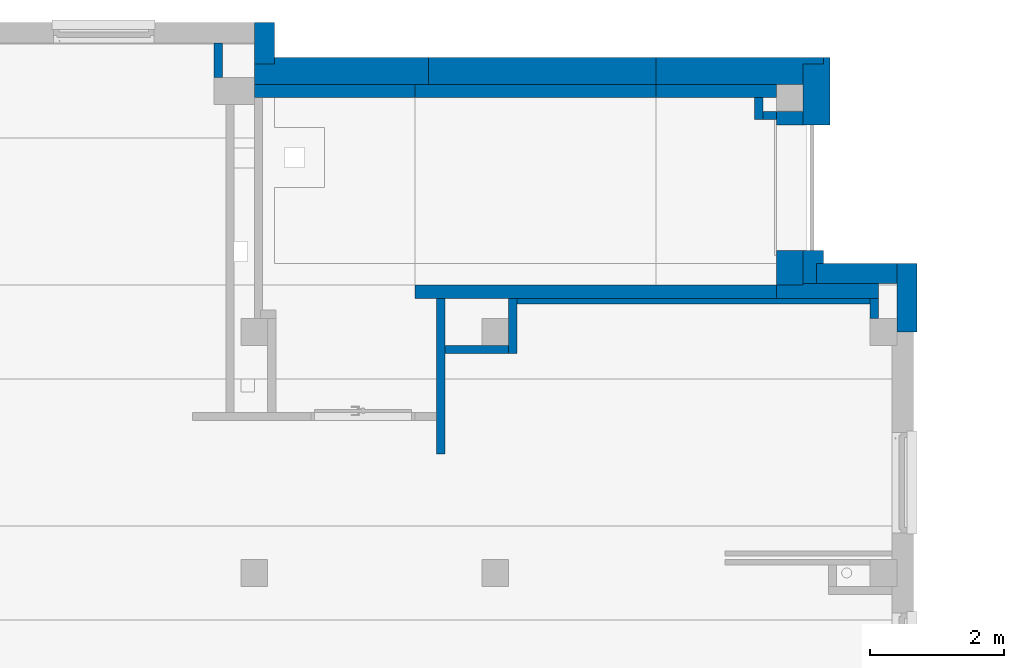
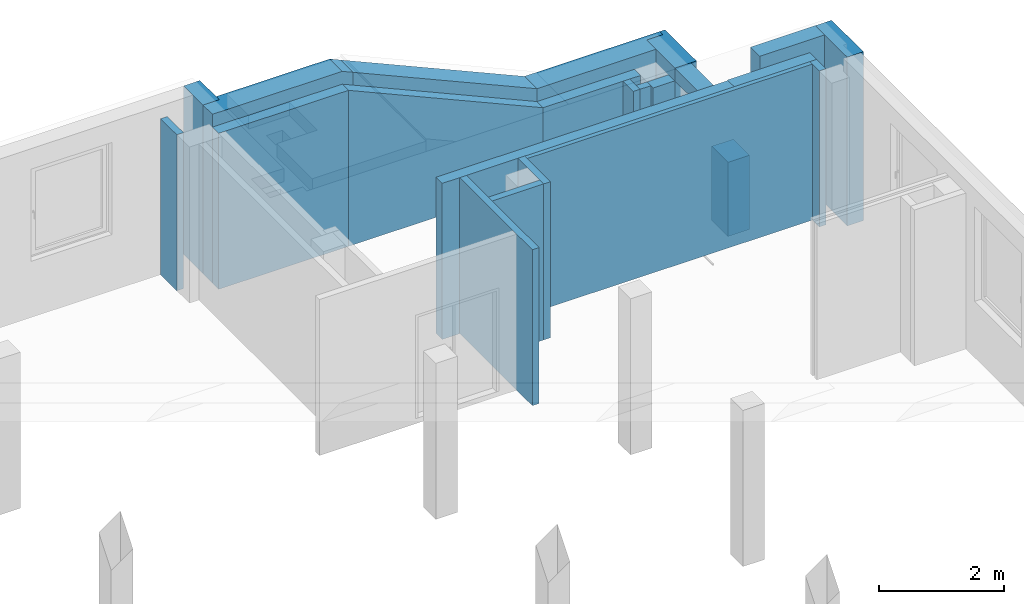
# One storey, part 11 of 27: 23 walls, 1 opening.
"""IFC4 building model written with IfcOpenShell, lengths in metres."""

from ifc_helpers import new_model, entity, si_unit, converted_unit, derived_unit, frame, frame_2d, origin, origin_with_axes, place, context, subcontext, project, spatial, polyline, rectangle, outline, extrude, clip, halfspace, bounded_halfspace, material, layer, layer_set, layer_usage, element, save


model = new_model("IFC4")

# Units and contexts
model_context = context("Model", 3, precision=1e-05, world=origin())
body_context = subcontext(model_context, "Body", "Model", "MODEL_VIEW")
ifc_project = project(units=[si_unit("LENGTHUNIT", "METRE"), si_unit("AREAUNIT", "SQUARE_METRE"), si_unit("VOLUMEUNIT", "CUBIC_METRE"), si_unit("MASSUNIT", "GRAM", prefix="KILO"), converted_unit("PLANEANGLEUNIT", "DEGREE", entity("IfcPlaneAngleMeasure", 0.0174532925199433), si_unit("PLANEANGLEUNIT", "RADIAN"), dimensions=[0, 0, 0, 0, 0, 0, 0]), derived_unit("THERMALTRANSMITTANCEUNIT", [(si_unit("POWERUNIT", "WATT"), 1), (si_unit("THERMODYNAMICTEMPERATUREUNIT", "KELVIN"), -1), (si_unit("LENGTHUNIT", "METRE"), -2)]), derived_unit("VOLUMETRICFLOWRATEUNIT", [(si_unit("LENGTHUNIT", "METRE"), 3), (converted_unit("TIMEUNIT", "hour", entity("IfcTimeMeasure", 3600.0), si_unit("TIMEUNIT", "SECOND"), dimensions=[0, 0, 1, 0, 0, 0, 0]), -1), (si_unit("LENGTHUNIT", "METRE"), -1)])], contexts=[model_context])

# Site, building, storey
site_placement = place(None, origin())
site = spatial("IfcSite", under=ifc_project, at=site_placement, Name="3. ASŘ", CompositionType="ELEMENT")
building_placement = place(site_placement, origin())
building = spatial("IfcBuilding", under=site, at=building_placement, Name="Pavilon C", CompositionType="ELEMENT")
storey_placement = place(building_placement, frame((0.0, 0.0, 10.5)))
storey = spatial("IfcBuildingStorey", under=building, at=storey_placement, Name="Půdorys 4.NP", CompositionType="ELEMENT", Elevation=10.5)

# Walls
ifc_material_1 = material(Name="ZELEZOBETONOVÁ KCE")
ifc_layer_1 = layer(ifc_material_1, 0.2)
ifc_layer_set_1 = layer_set([ifc_layer_1])
ifc_layer_usage_1 = layer_usage(ifc_layer_set_1, "AXIS2", "POSITIVE", 0.0)
wall_1_placement = place(storey_placement, frame((48.15, 29.5, -0.1), z_axis=(0.0, 0.0, 1.0), x_axis=(-1.0, 0.0, 0.0)))
element("IfcWall", 1, at=wall_1_placement, inside=storey, material=ifc_layer_usage_1, Name="ZELEZOBETONOVÁ KCE", context=body_context, shape_type="SweptSolid", body=[
    extrude(rectangle(XDim=5.4, YDim=0.2, at=frame_2d((2.7, 0.1), x_axis=(1.0, 0.0))), origin_with_axes(), (0.0, 0.0, 1.0), 3.05),
])
ifc_material_2 = material(Name="ZELEZOBETONOVÁ KCE")
ifc_layer_2 = layer(ifc_material_2, 0.3)
ifc_layer_set_2 = layer_set([ifc_layer_2])
ifc_layer_usage_2 = layer_usage(ifc_layer_set_2, "AXIS2", "POSITIVE", 0.0)
wall_2_placement = place(storey_placement, frame((50.25, 28.8, -0.1), z_axis=(0.0, 0.0, 1.0), x_axis=(0.0, 1.0, 0.0)))
element("IfcWall", 2, at=wall_2_placement, inside=storey, material=ifc_layer_usage_2, Name="ZELEZOBETONOVÁ KCE", context=body_context, shape_type="SweptSolid", body=[
    extrude(rectangle(XDim=1.02, YDim=0.3, at=frame_2d((0.51, 0.15), x_axis=(1.0, 0.0))), origin_with_axes(), (0.0, 0.0, 1.0), 3.3),
])
ifc_material_3 = material(Name="PLYNOSILIKÁT")
ifc_layer_3 = layer(ifc_material_3, 0.3)
ifc_layer_set_3 = layer_set([ifc_layer_3])
ifc_layer_usage_3 = layer_usage(ifc_layer_set_3, "AXIS2", "POSITIVE", 0.0)
wall_3_placement = place(storey_placement, frame((40.65, 32.8, -0.1), z_axis=(0.0, 0.0, 1.0), x_axis=(0.0, 1.0, 0.0)))
element("IfcWall", 3, at=wall_3_placement, inside=storey, material=ifc_layer_usage_3, Name="PLYNOSILIKÁT", context=body_context, shape_type="SweptSolid", body=[
    extrude(rectangle(XDim=0.620000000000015, YDim=0.3, at=frame_2d((0.310000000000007, 0.15), x_axis=(1.0, 0.0))), origin_with_axes(), (0.0, 0.0, 1.0), 3.3),
])
ifc_material_4 = material(Name="ZDIVO Z CDm")
ifc_layer_4 = layer(ifc_material_4, 0.125)
ifc_layer_set_4 = layer_set([ifc_layer_4])
ifc_layer_usage_4 = layer_usage(ifc_layer_set_4, "AXIS2", "POSITIVE", 0.0)
wall_4_placement = place(storey_placement, frame((43.075, 29.3, -0.1), z_axis=(0.0, 0.0, 1.0), x_axis=(0.0, -1.0, 0.0)))
element("IfcWall", 4, at=wall_4_placement, inside=storey, material=ifc_layer_usage_4, Name="ZDIVO Z CDm", context=body_context, shape_type="SweptSolid", body=[
    extrude(rectangle(XDim=2.325, YDim=0.125, at=frame_2d((1.1625, 0.0625), x_axis=(1.0, 0.0))), origin_with_axes(), (0.0, 0.0, 1.0), 3.05),
])
ifc_material_5 = material(Name="ZDIVO Z CDm")
ifc_layer_5 = layer(ifc_material_5, 0.125)
ifc_layer_set_5 = layer_set([ifc_layer_5])
ifc_layer_usage_5 = layer_usage(ifc_layer_set_5, "AXIS2", "POSITIVE", 0.0)
wall_5_placement = place(storey_placement, frame((49.55, 29.3, -0.1), z_axis=(0.0, 0.0, 1.0), x_axis=(0.0, -1.0, 0.0)))
element("IfcWall", 5, at=wall_5_placement, inside=storey, material=ifc_layer_usage_5, Name="ZDIVO Z CDm", context=body_context, shape_type="SweptSolid", body=[
    extrude(rectangle(XDim=0.299999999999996, YDim=0.125, at=frame_2d((0.149999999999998, 0.0625), x_axis=(1.0, 0.0))), origin_with_axes(), (0.0, 0.0, 1.0), 3.05),
])
ifc_material_6 = material(Name="ZDIVO Z CDm")
ifc_layer_6 = layer(ifc_material_6, 0.125)
ifc_layer_set_6 = layer_set([ifc_layer_6])
ifc_layer_usage_6 = layer_usage(ifc_layer_set_6, "AXIS2", "POSITIVE", 0.0)
wall_6_placement = place(storey_placement, frame((39.75, 33.12, -0.1), z_axis=(0.0, 0.0, 1.0), x_axis=(0.0, -1.0, 0.0)))
element("IfcWall", 6, at=wall_6_placement, inside=storey, material=ifc_layer_usage_6, Name="ZDIVO Z CDm", context=body_context, shape_type="SweptSolid", body=[
    extrude(rectangle(XDim=0.520000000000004, YDim=0.125, at=frame_2d((0.260000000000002, 0.0625), x_axis=(1.0, 0.0))), origin_with_axes(), (0.0, 0.0, 1.0), 3.05),
])
ifc_material_7 = material(Name="ZDIVO Z CDm")
ifc_layer_7 = layer(ifc_material_7, 0.22)
ifc_layer_set_7 = layer_set([ifc_layer_7])
ifc_layer_usage_7 = layer_usage(ifc_layer_set_7, "AXIS2", "POSITIVE", 0.0)
wall_7_placement = place(storey_placement, frame((48.15, 29.3, -0.1)))
element("IfcWall", 7, at=wall_7_placement, inside=storey, material=ifc_layer_usage_7, Name="ZDIVO Z CDm", context=body_context, shape_type="SweptSolid", body=[
    extrude(rectangle(XDim=1.52500000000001, YDim=0.22, at=frame_2d((0.762500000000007, 0.11), x_axis=(1.0, 0.0))), origin_with_axes(), (0.0, 0.0, 1.0), 3.05),
])
ifc_material_8 = material(Name="ZELEZOBETONOVÁ KCE")
ifc_layer_8 = layer(ifc_material_8, 0.2)
ifc_layer_set_8 = layer_set([ifc_layer_8])
ifc_layer_usage_8 = layer_usage(ifc_layer_set_8, "AXIS2", "POSITIVE", -0.1)
wall_8_placement = place(storey_placement, frame((40.35, 32.3, -0.1)))
element("IfcWall", 8, at=wall_8_placement, inside=storey, material=ifc_layer_usage_8, Name="ZELEZOBETONOVÁ KCE", context=body_context, shape_type="SweptSolid", body=[
    extrude(rectangle(XDim=2.4, YDim=0.2, at=frame_2d((1.2, 0.1), x_axis=(1.0, 0.0))), origin_with_axes(), (0.0, 0.0, 1.0), 3.05),
])
ifc_material_9 = material(Name="PLYNOSILIKÁT")
ifc_layer_9 = layer(ifc_material_9, 0.2)
ifc_layer_set_9 = layer_set([ifc_layer_9])
ifc_layer_usage_9 = layer_usage(ifc_layer_set_9, "AXIS2", "POSITIVE", 0.0)
wall_9_placement = place(storey_placement, frame((46.35, 32.5, -0.1), z_axis=(0.0, 0.0, 1.0), x_axis=(-1.0, 0.0, 0.0)))
element("IfcWall", 9, at=wall_9_placement, inside=storey, material=ifc_layer_usage_9, Name="PLYNOSILIKÁT", context=body_context, shape_type="Clipping", body=[
    clip(extrude(rectangle(XDim=3.6, YDim=0.2, at=frame_2d((1.8, 0.1), x_axis=(1.0, 0.0))), origin_with_axes(), (0.0, 0.0, 1.0), 3.05), halfspace(frame((1.8, 0.1, 2.25), z_axis=(0.406138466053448, 0.0, -0.913811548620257), x_axis=(0.0, -1.0, 0.0)), True)),
])
ifc_material_10 = material(Name="ZDIVO Z CDm")
ifc_layer_10 = layer(ifc_material_10, 0.125)
ifc_layer_set_10 = layer_set([ifc_layer_10])
ifc_layer_usage_10 = layer_usage(ifc_layer_set_10, "AXIS2", "POSITIVE", 0.0)
wall_10_placement = place(storey_placement, frame((47.95, 31.97, -0.1), z_axis=(0.0, 0.0, 1.0), x_axis=(0.0, 1.0, 0.0)))
element("IfcWall", 10, at=wall_10_placement, inside=storey, material=ifc_layer_usage_10, Name="ZDIVO Z CDm", context=body_context, shape_type="SweptSolid", body=[
    extrude(rectangle(XDim=0.330000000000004, YDim=0.125, at=frame_2d((0.165000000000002, 0.0625), x_axis=(1.0, 0.0))), origin_with_axes(), (0.0, 0.0, 1.0), 1.45),
])
ifc_material_11 = material(Name="ZDIVO Z CDm")
ifc_layer_11 = layer(ifc_material_11, 0.2)
ifc_layer_set_11 = layer_set([ifc_layer_11])
ifc_layer_usage_11 = layer_usage(ifc_layer_set_11, "AXIS2", "POSITIVE", 0.0)
wall_11_placement = place(storey_placement, frame((48.15, 31.895, -0.1)))
element("IfcWall", 11, at=wall_11_placement, inside=storey, material=ifc_layer_usage_11, Name="ZDIVO Z CDm", context=body_context, shape_type="SweptSolid", body=[
    extrude(rectangle(XDim=0.4, YDim=0.2, at=frame_2d((0.2, 0.1), x_axis=(1.0, 0.0))), origin_with_axes(), (0.0, 0.0, 1.0), 1.45),
])
ifc_material_12 = material(Name="ZELEZOBETONOVÁ KCE")
ifc_layer_12 = layer(ifc_material_12, 0.2)
ifc_layer_set_12 = layer_set([ifc_layer_12])
ifc_layer_usage_12 = layer_usage(ifc_layer_set_12, "AXIS2", "POSITIVE", 0.0)
wall_12_placement = place(storey_placement, frame((46.35, 32.3, -0.1)))
element("IfcWall", 12, at=wall_12_placement, inside=storey, material=ifc_layer_usage_12, Name="ZELEZOBETONOVÁ KCE", context=body_context, shape_type="SweptSolid", body=[
    extrude(rectangle(XDim=1.8, YDim=0.2, at=frame_2d((0.9, 0.1), x_axis=(1.0, 0.0))), origin_with_axes(), (0.0, 0.0, 1.0), 1.45),
])
ifc_material_13 = material(Name="ZDIVO Z CDm")
ifc_layer_13 = layer(ifc_material_13, 0.4)
ifc_layer_set_13 = layer_set([ifc_layer_13])
ifc_layer_usage_13 = layer_usage(ifc_layer_set_13, "AXIS2", "POSITIVE", 0.0)
wall_13_placement = place(storey_placement, frame((48.55, 29.5, -0.1), z_axis=(0.0, 0.0, 1.0), x_axis=(0.0, 1.0, 0.0)))
element("IfcWall", 13, at=wall_13_placement, inside=storey, material=ifc_layer_usage_13, Name="ZDIVO Z CDm", context=body_context, shape_type="SweptSolid", body=[
    extrude(rectangle(XDim=0.519999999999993, YDim=0.4, at=frame_2d((0.259999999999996, 0.2), x_axis=(1.0, 0.0))), origin_with_axes(), (0.0, 0.0, 1.0), 1.45),
])
ifc_material_14 = material(Name="ZELEZOBETONOVÁ KCE")
ifc_layer_14 = layer(ifc_material_14, 0.3)
ifc_layer_set_14 = layer_set([ifc_layer_14])
ifc_layer_usage_14 = layer_usage(ifc_layer_set_14, "AXIS2", "POSITIVE", 0.0)
wall_14_placement = place(storey_placement, frame((49.95, 29.82, -0.1), z_axis=(0.0, 0.0, 1.0), x_axis=(-1.0, 0.0, 0.0)))
element("IfcWall", 14, at=wall_14_placement, inside=storey, material=ifc_layer_usage_14, Name="ZELEZOBETONOVÁ KCE", context=body_context, shape_type="SweptSolid", body=[
    extrude(rectangle(XDim=1.2, YDim=0.3, at=frame_2d((0.6, 0.15), x_axis=(1.0, 0.0))), origin_with_axes(), (0.0, 0.0, 1.0), 3.3),
])
ifc_material_15 = material(Name="EPS")
ifc_layer_15 = layer(ifc_material_15, 0.1)
ifc_material_16 = material(Name="ZDIVO Z CDm")
ifc_layer_16 = layer(ifc_material_16, 0.3)
ifc_layer_set_15 = layer_set([ifc_layer_15, ifc_layer_16])
ifc_layer_usage_15 = layer_usage(ifc_layer_set_15, "AXIS2", "POSITIVE", -0.1)
wall_15_placement = place(storey_placement, frame((48.95, 31.895, -0.1), z_axis=(0.0, 0.0, 1.0), x_axis=(0.0, 1.0, 0.0)))
element("IfcWall", 15, at=wall_15_placement, inside=storey, material=ifc_layer_usage_15, Name="ZDIVO Z CDm", context=body_context, shape_type="SweptSolid", body=[
    extrude(outline(polyline([(0.0, -0.4), (1.005, -0.4), (1.005, -0.3), (0.904999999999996, -0.3), (0.904999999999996, 0.0), (0.0, 0.0), (0.0, -0.4)])), frame((0.0, 0.4, 0.0), z_axis=(0.0, 0.0, 1.0), x_axis=(1.0, 0.0, 0.0)), (0.0, 0.0, 1.0), 1.7),
])
ifc_material_17 = material(Name="EPS")
ifc_layer_17 = layer(ifc_material_17, 0.1)
ifc_material_18 = material(Name="PLYNOSILIKÁT")
ifc_layer_18 = layer(ifc_material_18, 0.3)
ifc_layer_set_16 = layer_set([ifc_layer_17, ifc_layer_18])
ifc_layer_usage_16 = layer_usage(ifc_layer_set_16, "AXIS2", "POSITIVE", -0.1)
wall_16_placement = place(storey_placement, frame((48.85, 32.9, -0.1), z_axis=(0.0, 0.0, 1.0), x_axis=(-1.0, 0.0, 0.0)))
element("IfcWall", 16, at=wall_16_placement, inside=storey, material=ifc_layer_usage_16, Name="PLYNOSILIKÁT", context=body_context, shape_type="SweptSolid", body=[
    extrude(outline(polyline([(-2.2, 0.0), (-2.2, -0.3), (-2.5, -0.3), (-2.5, -0.4), (0.0, -0.4), (0.0, 0.0), (-2.2, 0.0)])), frame((2.5, 0.4, 0.0), z_axis=(0.0, 0.0, 1.0), x_axis=(1.0, 0.0, 0.0)), (0.0, 0.0, 1.0), 1.7),
])
ifc_material_19 = material(Name="EPS")
ifc_layer_19 = layer(ifc_material_19, 0.1)
ifc_material_20 = material(Name="PLYNOSILIKÁT")
ifc_layer_20 = layer(ifc_material_20, 0.3)
ifc_layer_set_17 = layer_set([ifc_layer_19, ifc_layer_20])
ifc_layer_usage_17 = layer_usage(ifc_layer_set_17, "AXIS2", "POSITIVE", -0.1)
wall_17_placement = place(storey_placement, frame((46.35, 32.9, -0.1), z_axis=(0.0, 0.0, 1.0), x_axis=(-1.0, 0.0, 0.0)))
element("IfcWall", 17, at=wall_17_placement, inside=storey, material=ifc_layer_usage_17, Name="PLYNOSILIKÁT", context=body_context, shape_type="Clipping", body=[
    clip(extrude(rectangle(XDim=3.4, YDim=0.4, at=frame_2d((1.7, 0.2), x_axis=(1.0, 0.0))), origin_with_axes(), (0.0, 0.0, 1.0), 3.21111111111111), halfspace(frame((1.7, 0.2, 2.45555555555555), z_axis=(0.406138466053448, 1.56443625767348e-16, -0.913811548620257), x_axis=(0.0, 1.0, 0.0)), True)),
])
ifc_material_21 = material(Name="EPS")
ifc_layer_21 = layer(ifc_material_21, 0.1)
ifc_material_22 = material(Name="ZELEZOBETONOVÁ KCE")
ifc_layer_22 = layer(ifc_material_22, 0.299999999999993)
ifc_layer_set_18 = layer_set([ifc_layer_21, ifc_layer_22])
ifc_layer_usage_18 = layer_usage(ifc_layer_set_18, "AXIS2", "POSITIVE", -0.1)
wall_18_placement = place(storey_placement, frame((42.95, 32.9, -0.1), z_axis=(0.0, 0.0, 1.0), x_axis=(-1.0, 0.0, 0.0)))
element("IfcWall", 18, at=wall_18_placement, inside=storey, material=ifc_layer_usage_18, Name="ZELEZOBETONOVÁ KCE", context=body_context, shape_type="Clipping", body=[
    clip(extrude(outline(polyline([(-2.6, -0.399999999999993), (-0.3, -0.399999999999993), (-0.3, -0.299999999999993), (0.0, -0.299999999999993), (0.0, 0.0), (-2.6, 0.0), (-2.6, -0.399999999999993)])), frame((2.6, 0.399999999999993, 0.0), z_axis=(0.0, 0.0, 1.0), x_axis=(1.0, 0.0, 0.0)), (0.0, 0.0, 1.0), 3.3), bounded_halfspace(frame((0.100000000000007, 0.2, 3.25555555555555), z_axis=(0.406138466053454, 0.0, -0.913811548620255), x_axis=(0.0, -1.0, 0.0)), True, origin_with_axes(), polyline([(7.27595761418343e-15, 0.399999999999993), (7.27595761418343e-15, 0.0), (0.200000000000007, 0.0), (0.200000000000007, 0.399999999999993), (7.27595761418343e-15, 0.399999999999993)]))),
])

# Wall, opening
ifc_material_23 = material(Name="ZDIVO Z CDm")
ifc_layer_23 = layer(ifc_material_23, 0.3)
ifc_layer_set_19 = layer_set([ifc_layer_23])
ifc_layer_usage_19 = layer_usage(ifc_layer_set_19, "AXIS2", "POSITIVE", 0.0)
wall_19_placement = place(storey_placement, frame((48.85, 29.52, -0.1), z_axis=(0.0, 0.0, 1.0), x_axis=(0.0, 1.0, 0.0)))
wall_19 = element("IfcWall", 19, at=wall_19_placement, inside=storey, material=ifc_layer_usage_19, Name="ZDIVO Z CDm", context=body_context, shape_type="SweptSolid", body=[
    extrude(rectangle(XDim=2.375, YDim=0.3, at=frame_2d((1.1875, 0.15), x_axis=(1.0, 0.0))), origin_with_axes(), (0.0, 0.0, 1.0), 1.7),
])
opening_placement = place(wall_19_placement, frame((0.499999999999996, 0.0, 0.0), z_axis=(0.0, 1.0, 0.0), x_axis=(0.0, 0.0, 1.0)))
element("IfcOpeningElement", 20, at=opening_placement, cuts=wall_19, Name="Okenní otvor", ObjectType="Opening", context=body_context, shape_type="SweptSolid", body=[
    extrude(outline(polyline([(0.0, 1.875), (1.45, 1.875), (1.45, 0.0), (0.0, 0.0), (0.0, 1.875)])), origin_with_axes(), (0.0, 0.0, 1.0), 0.3),
])

# Walls
ifc_material_24 = material(Name="ZDIVO Z CDm")
ifc_layer_24 = layer(ifc_material_24, 0.125000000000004)
ifc_layer_set_20 = layer_set([ifc_layer_24])
ifc_layer_usage_20 = layer_usage(ifc_layer_set_20, "AXIS2", "POSITIVE", 0.0)
wall_20_placement = place(storey_placement, frame((48.15, 32.095, -0.1), z_axis=(0.0, 0.0, 1.0), x_axis=(-1.0, -1.81898940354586e-14, 0.0)))
element("IfcWall", 21, at=wall_20_placement, inside=storey, material=ifc_layer_usage_20, Name="ZDIVO Z CDm", context=body_context, shape_type="SweptSolid", body=[
    extrude(rectangle(XDim=0.2, YDim=0.125000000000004, at=frame_2d((0.1, 0.0625000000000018), x_axis=(1.0, 0.0))), origin_with_axes(), (0.0, 0.0, 1.0), 1.45),
])
ifc_material_25 = material(Name="ZDIVO Z CDm")
ifc_layer_25 = layer(ifc_material_25, 0.125)
ifc_layer_set_21 = layer_set([ifc_layer_25])
ifc_layer_usage_21 = layer_usage(ifc_layer_set_21, "AXIS2", "POSITIVE", 0.0)
wall_21_placement = place(storey_placement, frame((44.15, 29.3, -0.1), z_axis=(0.0, 0.0, 1.0), x_axis=(0.0, -1.0, 0.0)))
element("IfcWall", 22, at=wall_21_placement, inside=storey, material=ifc_layer_usage_21, Name="ZDIVO Z CDm", context=body_context, shape_type="SweptSolid", body=[
    extrude(rectangle(XDim=0.824999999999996, YDim=0.125, at=frame_2d((0.412499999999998, 0.0625), x_axis=(1.0, 0.0))), origin_with_axes(), (0.0, 0.0, 1.0), 3.05),
])
ifc_material_26 = material(Name="ZDIVO Z CDm")
ifc_layer_26 = layer(ifc_material_26, 0.125)
ifc_layer_set_22 = layer_set([ifc_layer_26])
ifc_layer_usage_22 = layer_usage(ifc_layer_set_22, "AXIS2", "POSITIVE", 0.0)
wall_22_placement = place(storey_placement, frame((44.15, 28.6, -0.1), z_axis=(0.0, 0.0, 1.0), x_axis=(-1.0, 0.0, 0.0)))
element("IfcWall", 23, at=wall_22_placement, inside=storey, material=ifc_layer_usage_22, Name="ZDIVO Z CDm", context=body_context, shape_type="SweptSolid", body=[
    extrude(rectangle(XDim=0.950000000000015, YDim=0.125, at=frame_2d((0.475000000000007, 0.0625), x_axis=(1.0, 0.0))), origin_with_axes(), (0.0, 0.0, 1.0), 3.05),
])
ifc_material_27 = material(Name="PÓROBETONOVÉ ZDIVO")
ifc_layer_27 = layer(ifc_material_27, 0.08)
ifc_layer_set_23 = layer_set([ifc_layer_27])
ifc_layer_usage_23 = layer_usage(ifc_layer_set_23, "AXIS2", "POSITIVE", 0.0)
wall_23_placement = place(storey_placement, frame((49.55, 29.3, -0.1), z_axis=(0.0, 0.0, 1.0), x_axis=(-1.0, 0.0, 0.0)))
element("IfcWall", 24, at=wall_23_placement, inside=storey, material=ifc_layer_usage_23, Name="PÓROBETONOVÉ ZDIVO", context=body_context, shape_type="SweptSolid", body=[
    extrude(rectangle(XDim=5.275, YDim=0.08, at=frame_2d((2.6375, 0.04), x_axis=(1.0, 0.0))), origin_with_axes(), (0.0, 0.0, 1.0), 3.05),
])

save(model, "model.ifc")
